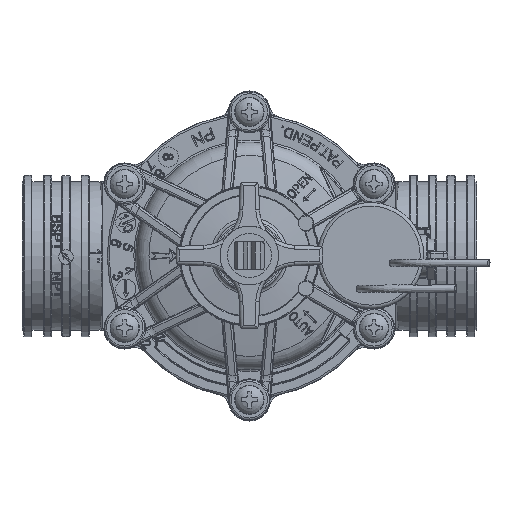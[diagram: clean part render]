
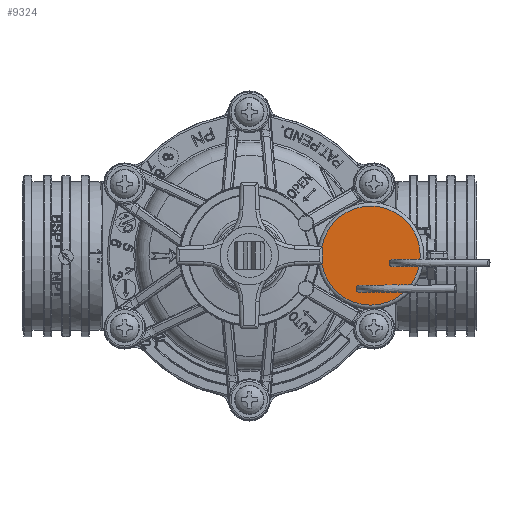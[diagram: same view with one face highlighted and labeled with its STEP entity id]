
A CAD part, top view. The second image highlights one B-rep face of the part: STEP entity #9324.
In plain terms, the highlighted planar face has unit normal (0, 0, 1).
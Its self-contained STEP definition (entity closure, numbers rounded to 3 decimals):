
#8727=CARTESIAN_POINT('',(7.,-2.014,39.));
#8728=VERTEX_POINT('Vertex442',#8727);
#8729=CARTESIAN_POINT('',(7.,-2.014,39.));
#8730=CARTESIAN_POINT('',(7.,-2.145,39.));
#8731=CARTESIAN_POINT('',(6.935,-2.472,39.));
#8732=CARTESIAN_POINT('',(6.589,-2.895,39.));
#8733=CARTESIAN_POINT('',(6.,-3.073,39.));
#8734=CARTESIAN_POINT('',(5.411,-2.895,39.));
#8735=CARTESIAN_POINT('',(5.021,-2.419,39.));
#8736=CARTESIAN_POINT('',(4.961,-1.807,39.));
#8737=CARTESIAN_POINT('',(5.251,-1.265,39.));
#8738=CARTESIAN_POINT('',(5.793,-0.975,39.));
#8739=CARTESIAN_POINT('',(6.405,-1.035,39.));
#8740=CARTESIAN_POINT('',(6.881,-1.425,39.));
#8741=CARTESIAN_POINT('',(7.,-1.818,39.));
#8742=CARTESIAN_POINT('',(7.,-2.014,39.));
#8743=B_SPLINE_CURVE_WITH_KNOTS('',3,(#8729,#8730,#8731,#8732,#8733,#8734,#8735
,#8736,#8737,#8738,#8739,#8740,#8741,#8742),.UNSPECIFIED.,.T.,.F.,(4,1,1,1,1,1,
1,1,1,1,1,4),(-6.283,-5.89,-5.301,
-4.712,-4.123,-3.534,-2.945,
-2.356,-1.767,-1.178,-0.589,0.),
.UNSPECIFIED.);
#8744=EDGE_CURVE('Edge643',#8728,#8728,#8743,.T.);
#9008=CARTESIAN_POINT('',(0.,-13.5,39.));
#9009=VERTEX_POINT('Vertex6462',#9008);
#9010=CARTESIAN_POINT('',(13.5,0.,39.));
#9011=VERTEX_POINT('Vertex444',#9010);
#9012=CARTESIAN_POINT('',(0.,0.,39.));
#9013=DIRECTION('',(0.,0.,-1.));
#9014=DIRECTION('',(0.,-1.,0.));
#9015=AXIS2_PLACEMENT_3D('',#9012,#9013,#9014);
#9016=CIRCLE('',#9015,13.5);
#9017=EDGE_CURVE('Edge10542',#9009,#9011,#9016,.T.);
#9019=CARTESIAN_POINT('',(0.,0.,39.));
#9020=DIRECTION('',(0.,0.,-1.));
#9021=DIRECTION('',(1.,0.,0.));
#9022=AXIS2_PLACEMENT_3D('',#9019,#9020,#9021);
#9023=CIRCLE('',#9022,13.5);
#9024=EDGE_CURVE('Edge10541',#9011,#9009,#9023,.T.);
#9312=ORIENTED_EDGE('Edgeuse21056',*,*,#9017,.F.);
#9313=ORIENTED_EDGE('Edgeuse21054',*,*,#9024,.F.);
#9314=EDGE_LOOP('',(#9312,#9313));
#9315=FACE_OUTER_BOUND('',#9314,.T.);
#9316=ORIENTED_EDGE('Edgeuse1291',*,*,#8744,.T.);
#9317=EDGE_LOOP('',(#9316));
#9318=FACE_BOUND('',#9317,.T.);
#9319=CARTESIAN_POINT('',(0.,0.,39.));
#9320=DIRECTION('',(0.,0.,1.));
#9321=DIRECTION('',(-1.,0.,0.));
#9322=AXIS2_PLACEMENT_3D('',#9319,#9320,#9321);
#9323=PLANE('',#9322);
#9324=ADVANCED_FACE('Face232',(#9315,#9318),#9323,.T.);
